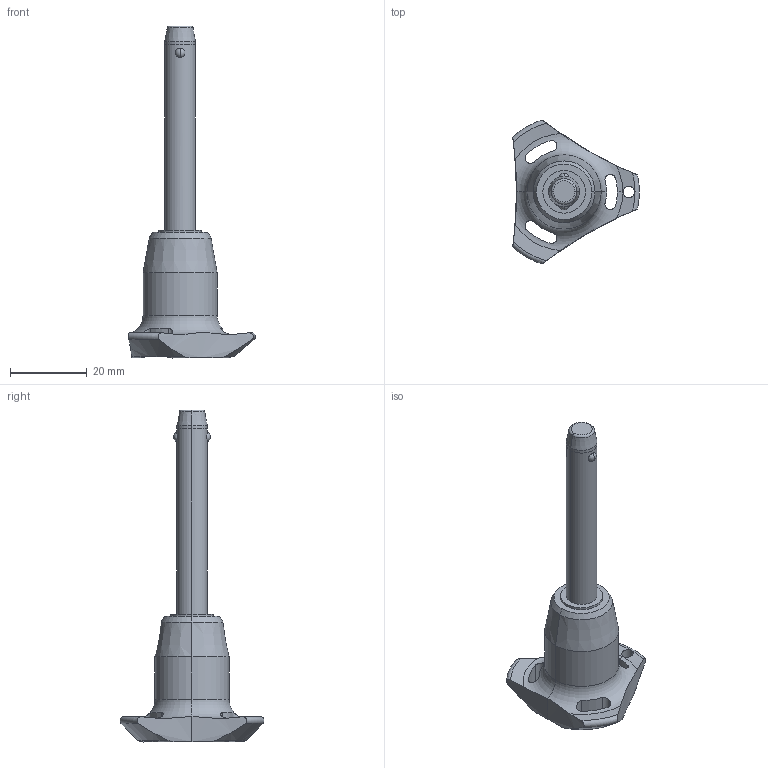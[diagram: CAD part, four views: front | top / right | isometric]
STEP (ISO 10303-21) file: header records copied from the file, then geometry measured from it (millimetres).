
FILE_DESCRIPTION (( 'STEP AP203' ), '1' );
FILE_NAME ('QR1726.M08-045-T.step', '2025-11-13T11:06:56', ( '' ), ( '' ), 'SwSTEP 2.0', 'SolidWorks 2019', '' );
FILE_SCHEMA (( 'CONFIG_CONTROL_DESIGN' ));
Length unit declared in the file: millimetre
Products named in the file (1): QR1726.M08-045-T
Bounding box: 33 x 37.51 x 86.5 mm (x, y, z)
Volume: 12912 mm3; surface area: 5185.7 mm2
Topology: 1 solids, 1 shells, 68 faces, 180 edges, 113 vertices
Faces by surface type: cylinder 32, cone 14, torus 11, sphere 6, plane 5
Entity records: 2826 total; most frequent: CARTESIAN_POINT 1086, ORIENTED_EDGE 360, DIRECTION 347, EDGE_CURVE 180, AXIS2_PLACEMENT_3D 154, VERTEX_POINT 113, CIRCLE 85, EDGE_LOOP 75
